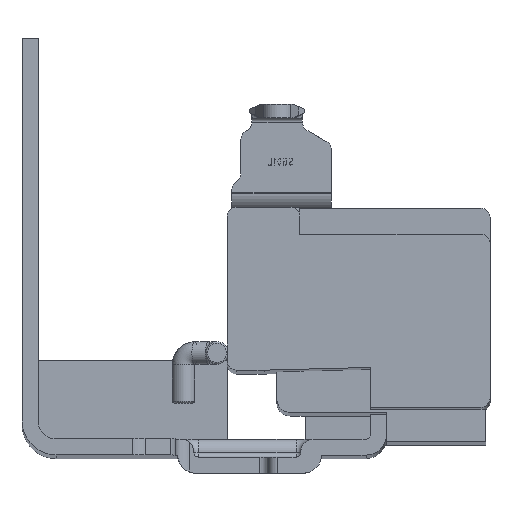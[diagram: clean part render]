
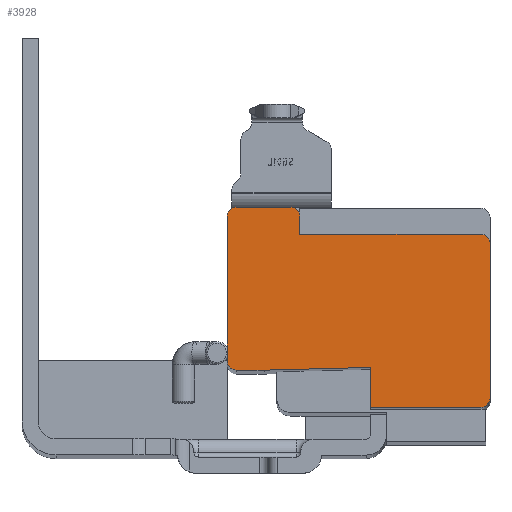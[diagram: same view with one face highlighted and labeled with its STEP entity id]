
A CAD part, top view. The second image highlights one B-rep face of the part: STEP entity #3928.
In plain terms, the highlighted planar face has unit normal (0, 0, 1).
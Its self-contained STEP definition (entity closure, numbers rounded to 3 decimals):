
#8 = EDGE_CURVE ( 'NONE', #896, #3369, #11626, .T. ) ;
#135 = DIRECTION ( 'NONE',  ( 1., 0., 0. ) ) ;
#149 = LINE ( 'NONE', #9185, #6872 ) ;
#317 = VECTOR ( 'NONE', #3023, 1000. ) ;
#527 = LINE ( 'NONE', #7696, #3229 ) ;
#531 = ORIENTED_EDGE ( 'NONE', *, *, #2668, .T. ) ;
#556 = DIRECTION ( 'NONE',  ( 0., 0., 1. ) ) ;
#576 = DIRECTION ( 'NONE',  ( 0., 0., 1. ) ) ;
#595 = LINE ( 'NONE', #4852, #317 ) ;
#711 = DIRECTION ( 'NONE',  ( 1., 0., 0. ) ) ;
#721 = VERTEX_POINT ( 'NONE', #5231 ) ;
#800 = EDGE_CURVE ( 'NONE', #6099, #6537, #5536, .T. ) ;
#804 = VERTEX_POINT ( 'NONE', #11405 ) ;
#896 = VERTEX_POINT ( 'NONE', #9209 ) ;
#992 = VECTOR ( 'NONE', #9489, 1000. ) ;
#1043 = CIRCLE ( 'NONE', #3471, 1. ) ;
#1082 = CARTESIAN_POINT ( 'NONE',  ( 8.83, 2.748, -18.7 ) ) ;
#1650 = DIRECTION ( 'NONE',  ( 0., -1., 0. ) ) ;
#1794 = FACE_OUTER_BOUND ( 'NONE', #8216, .T. ) ;
#1826 = CARTESIAN_POINT ( 'NONE',  ( 5.87, -15.252, -18.7 ) ) ;
#1969 = CARTESIAN_POINT ( 'NONE',  ( 29.83, -13.752, -18.7 ) ) ;
#2210 = DIRECTION ( 'NONE',  ( 1., 0., 0. ) ) ;
#2293 = VERTEX_POINT ( 'NONE', #7406 ) ;
#2607 = DIRECTION ( 'NONE',  ( -1., 0., 0. ) ) ;
#2634 = DIRECTION ( 'NONE',  ( 0., 1., 0. ) ) ;
#2668 = EDGE_CURVE ( 'NONE', #2293, #7757, #11738, .T. ) ;
#2826 = PLANE ( 'NONE',  #7429 ) ;
#3023 = DIRECTION ( 'NONE',  ( 0., -1., 0. ) ) ;
#3058 = DIRECTION ( 'NONE',  ( 0., 0., 1. ) ) ;
#3087 = ORIENTED_EDGE ( 'NONE', *, *, #10844, .T. ) ;
#3185 = VECTOR ( 'NONE', #2607, 1000. ) ;
#3229 = VECTOR ( 'NONE', #2210, 1000. ) ;
#3361 = EDGE_CURVE ( 'NONE', #804, #721, #8759, .T. ) ;
#3369 = VERTEX_POINT ( 'NONE', #8190 ) ;
#3392 = EDGE_CURVE ( 'NONE', #804, #7738, #10572, .T. ) ;
#3438 = ORIENTED_EDGE ( 'NONE', *, *, #4973, .T. ) ;
#3471 = AXIS2_PLACEMENT_3D ( 'NONE', #11627, #6194, #711 ) ;
#3797 = CIRCLE ( 'NONE', #7848, 1. ) ;
#3906 = VECTOR ( 'NONE', #2634, 1000. ) ;
#3928 = ADVANCED_FACE ( 'NONE', ( #1794 ), #2826, .T. ) ;
#4044 = AXIS2_PLACEMENT_3D ( 'NONE', #6020, #556, #6958 ) ;
#4260 = CARTESIAN_POINT ( 'NONE',  ( 30.83, -13.752, -18.7 ) ) ;
#4694 = CARTESIAN_POINT ( 'NONE',  ( 0., -0.252, -18.7 ) ) ;
#4728 = DIRECTION ( 'NONE',  ( 0., 0., 1. ) ) ;
#4752 = VERTEX_POINT ( 'NONE', #6305 ) ;
#4852 = CARTESIAN_POINT ( 'NONE',  ( 1.8, -6.222, -18.7 ) ) ;
#4919 = ORIENTED_EDGE ( 'NONE', *, *, #11175, .T. ) ;
#4925 = CARTESIAN_POINT ( 'NONE',  ( 2.8, -15.252, -18.7 ) ) ;
#4967 = AXIS2_PLACEMENT_3D ( 'NONE', #10662, #5251, #11587 ) ;
#4973 = EDGE_CURVE ( 'NONE', #6537, #7738, #9870, .T. ) ;
#5169 = ORIENTED_EDGE ( 'NONE', *, *, #11363, .T. ) ;
#5231 = CARTESIAN_POINT ( 'NONE',  ( 9.8, 1.778, -18.7 ) ) ;
#5247 = VECTOR ( 'NONE', #10516, 1000. ) ;
#5251 = DIRECTION ( 'NONE',  ( 0., 0., 1. ) ) ;
#5424 = CIRCLE ( 'NONE', #4967, 0.97 ) ;
#5494 = ORIENTED_EDGE ( 'NONE', *, *, #6916, .F. ) ;
#5536 = LINE ( 'NONE', #4260, #5247 ) ;
#5561 = CARTESIAN_POINT ( 'NONE',  ( 2.8, 2.748, -18.7 ) ) ;
#5759 = ORIENTED_EDGE ( 'NONE', *, *, #8, .T. ) ;
#5844 = CARTESIAN_POINT ( 'NONE',  ( 29.86, -0.252, -18.7 ) ) ;
#5858 = LINE ( 'NONE', #8588, #992 ) ;
#5950 = VERTEX_POINT ( 'NONE', #1826 ) ;
#6020 = CARTESIAN_POINT ( 'NONE',  ( 2.8, -14.252, -18.7 ) ) ;
#6049 = CARTESIAN_POINT ( 'NONE',  ( 2.8, 1.748, -18.7 ) ) ;
#6099 = VERTEX_POINT ( 'NONE', #9301 ) ;
#6194 = DIRECTION ( 'NONE',  ( 0., 0., 1. ) ) ;
#6305 = CARTESIAN_POINT ( 'NONE',  ( 1.8, 1.748, -18.7 ) ) ;
#6329 = CARTESIAN_POINT ( 'NONE',  ( 9.8, -0.252, -18.7 ) ) ;
#6537 = VERTEX_POINT ( 'NONE', #8256 ) ;
#6610 = ORIENTED_EDGE ( 'NONE', *, *, #7437, .T. ) ;
#6872 = VECTOR ( 'NONE', #7386, 1000. ) ;
#6916 = EDGE_CURVE ( 'NONE', #6931, #3369, #10434, .T. ) ;
#6931 = VERTEX_POINT ( 'NONE', #11728 ) ;
#6958 = DIRECTION ( 'NONE',  ( 1., 0., 0. ) ) ;
#6965 = ORIENTED_EDGE ( 'NONE', *, *, #9091, .T. ) ;
#6983 = DIRECTION ( 'NONE',  ( 1., 0., 0. ) ) ;
#7386 = DIRECTION ( 'NONE',  ( 1., 0.026, 0. ) ) ;
#7406 = CARTESIAN_POINT ( 'NONE',  ( 1.8, -14.252, -18.7 ) ) ;
#7429 = AXIS2_PLACEMENT_3D ( 'NONE', #1969, #4728, #11087 ) ;
#7437 = EDGE_CURVE ( 'NONE', #6931, #6099, #1043, .T. ) ;
#7488 = ORIENTED_EDGE ( 'NONE', *, *, #8255, .T. ) ;
#7696 = CARTESIAN_POINT ( 'NONE',  ( 4.965, -15.252, -18.7 ) ) ;
#7738 = VERTEX_POINT ( 'NONE', #5844 ) ;
#7757 = VERTEX_POINT ( 'NONE', #4925 ) ;
#7848 = AXIS2_PLACEMENT_3D ( 'NONE', #6049, #576, #6983 ) ;
#8056 = CARTESIAN_POINT ( 'NONE',  ( 4.965, -19.352, -18.7 ) ) ;
#8190 = CARTESIAN_POINT ( 'NONE',  ( 17.63, -19.352, -18.7 ) ) ;
#8216 = EDGE_LOOP ( 'NONE', ( #10447, #531, #7488, #3087, #5759, #5494, #6610, #9288, #3438, #9545, #9877, #5169, #4919, #6965 ) ) ;
#8255 = EDGE_CURVE ( 'NONE', #7757, #5950, #527, .T. ) ;
#8256 = CARTESIAN_POINT ( 'NONE',  ( 30.83, -1.222, -18.7 ) ) ;
#8539 = CARTESIAN_POINT ( 'NONE',  ( 29.86, -1.222, -18.7 ) ) ;
#8588 = CARTESIAN_POINT ( 'NONE',  ( 7.6, 2.748, -18.7 ) ) ;
#8759 = LINE ( 'NONE', #6329, #3906 ) ;
#9051 = CARTESIAN_POINT ( 'NONE',  ( 17.63, -1.252, -18.7 ) ) ;
#9091 = EDGE_CURVE ( 'NONE', #11573, #4752, #3797, .T. ) ;
#9160 = AXIS2_PLACEMENT_3D ( 'NONE', #8539, #3058, #9424 ) ;
#9185 = CARTESIAN_POINT ( 'NONE',  ( 5.324, -15.266, -18.7 ) ) ;
#9209 = CARTESIAN_POINT ( 'NONE',  ( 17.63, -14.951, -18.7 ) ) ;
#9216 = VECTOR ( 'NONE', #1650, 1000. ) ;
#9288 = ORIENTED_EDGE ( 'NONE', *, *, #800, .T. ) ;
#9301 = CARTESIAN_POINT ( 'NONE',  ( 30.83, -18.352, -18.7 ) ) ;
#9424 = DIRECTION ( 'NONE',  ( 1., 0., 0. ) ) ;
#9489 = DIRECTION ( 'NONE',  ( -1., 0., 0. ) ) ;
#9545 = ORIENTED_EDGE ( 'NONE', *, *, #3392, .F. ) ;
#9788 = VERTEX_POINT ( 'NONE', #1082 ) ;
#9870 = CIRCLE ( 'NONE', #9160, 0.97 ) ;
#9877 = ORIENTED_EDGE ( 'NONE', *, *, #3361, .T. ) ;
#9919 = EDGE_CURVE ( 'NONE', #4752, #2293, #595, .T. ) ;
#10286 = VECTOR ( 'NONE', #135, 1000. ) ;
#10434 = LINE ( 'NONE', #8056, #3185 ) ;
#10447 = ORIENTED_EDGE ( 'NONE', *, *, #9919, .T. ) ;
#10516 = DIRECTION ( 'NONE',  ( 0., 1., 0. ) ) ;
#10572 = LINE ( 'NONE', #4694, #10286 ) ;
#10662 = CARTESIAN_POINT ( 'NONE',  ( 8.83, 1.778, -18.7 ) ) ;
#10844 = EDGE_CURVE ( 'NONE', #5950, #896, #149, .T. ) ;
#11087 = DIRECTION ( 'NONE',  ( 1., 0., 0. ) ) ;
#11175 = EDGE_CURVE ( 'NONE', #9788, #11573, #5858, .T. ) ;
#11363 = EDGE_CURVE ( 'NONE', #721, #9788, #5424, .T. ) ;
#11405 = CARTESIAN_POINT ( 'NONE',  ( 9.8, -0.252, -18.7 ) ) ;
#11573 = VERTEX_POINT ( 'NONE', #5561 ) ;
#11587 = DIRECTION ( 'NONE',  ( 1., 0., 0. ) ) ;
#11626 = LINE ( 'NONE', #9051, #9216 ) ;
#11627 = CARTESIAN_POINT ( 'NONE',  ( 29.83, -18.352, -18.7 ) ) ;
#11728 = CARTESIAN_POINT ( 'NONE',  ( 29.83, -19.352, -18.7 ) ) ;
#11738 = CIRCLE ( 'NONE', #4044, 1. ) ;
